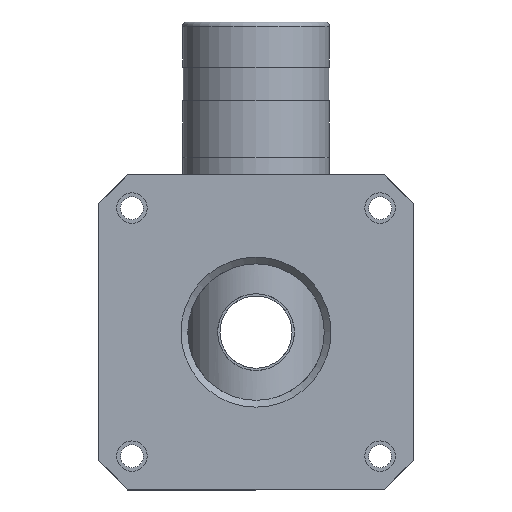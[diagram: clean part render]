
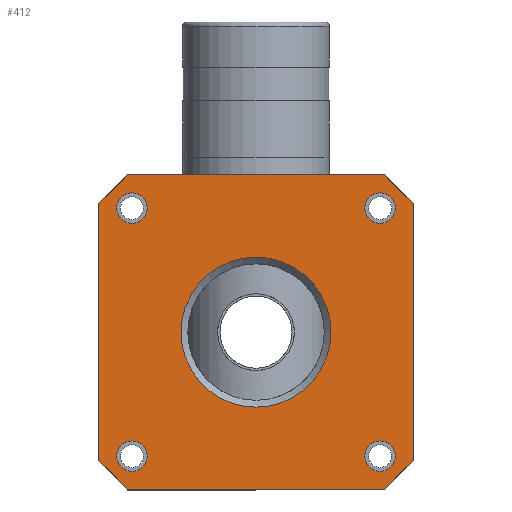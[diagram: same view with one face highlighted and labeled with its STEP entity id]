
A CAD part, front view. The second image highlights one B-rep face of the part: STEP entity #412.
In plain terms, the highlighted planar face has unit normal (0, -1, 0) as drawn and (0, 0, -1) by its records, which use the part's own axes.
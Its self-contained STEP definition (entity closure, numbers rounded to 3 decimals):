
#412=ADVANCED_FACE('',(#711,#712,#713,#714,#715,#716),#717,.T.);
#711=FACE_OUTER_BOUND('',#1082,.T.);
#712=FACE_BOUND('',#1083,.T.);
#713=FACE_BOUND('',#1084,.T.);
#714=FACE_BOUND('',#1085,.T.);
#715=FACE_BOUND('',#1086,.T.);
#716=FACE_BOUND('',#1087,.T.);
#717=PLANE('',#1088);
#1082=EDGE_LOOP('',(#1694,#1695,#1696,#1697,#1698,#1699,#1700,#1701));
#1083=EDGE_LOOP('',(#1702));
#1084=EDGE_LOOP('',(#1703));
#1085=EDGE_LOOP('',(#1704));
#1086=EDGE_LOOP('',(#1705));
#1087=EDGE_LOOP('',(#1706));
#1088=AXIS2_PLACEMENT_3D('',#1707,#1708,#1709);
#1694=ORIENTED_EDGE('',*,*,#2154,.T.);
#1695=ORIENTED_EDGE('',*,*,#2147,.T.);
#1696=ORIENTED_EDGE('',*,*,#2150,.T.);
#1697=ORIENTED_EDGE('',*,*,#2157,.T.);
#1698=ORIENTED_EDGE('',*,*,#2165,.T.);
#1699=ORIENTED_EDGE('',*,*,#2173,.T.);
#1700=ORIENTED_EDGE('',*,*,#2170,.T.);
#1701=ORIENTED_EDGE('',*,*,#2162,.T.);
#1702=ORIENTED_EDGE('',*,*,#2072,.T.);
#1703=ORIENTED_EDGE('',*,*,#2218,.F.);
#1704=ORIENTED_EDGE('',*,*,#2219,.F.);
#1705=ORIENTED_EDGE('',*,*,#2220,.F.);
#1706=ORIENTED_EDGE('',*,*,#2221,.F.);
#1707=CARTESIAN_POINT('',(0.0,0.0,-83.5));
#1708=DIRECTION('',(0.0,0.0,-1.0));
#1709=DIRECTION('',(-1.0,0.0,0.0));
#2072=EDGE_CURVE('',#2384,#2384,#2385,.F.);
#2147=EDGE_CURVE('',#2488,#2492,#2494,.T.);
#2150=EDGE_CURVE('',#2492,#2496,#2498,.T.);
#2154=EDGE_CURVE('',#2500,#2488,#2504,.T.);
#2157=EDGE_CURVE('',#2496,#2507,#2509,.T.);
#2162=EDGE_CURVE('',#2512,#2500,#2516,.T.);
#2165=EDGE_CURVE('',#2507,#2519,#2521,.T.);
#2170=EDGE_CURVE('',#2524,#2512,#2528,.T.);
#2173=EDGE_CURVE('',#2519,#2524,#2531,.T.);
#2218=EDGE_CURVE('',#2584,#2584,#2585,.T.);
#2219=EDGE_CURVE('',#2586,#2586,#2587,.T.);
#2220=EDGE_CURVE('',#2588,#2588,#2589,.T.);
#2221=EDGE_CURVE('',#2590,#2590,#2591,.T.);
#2384=VERTEX_POINT('',#3221);
#2385=CIRCLE('',#3222,33.25);
#2488=VERTEX_POINT('',#3371);
#2492=VERTEX_POINT('',#3377);
#2494=LINE('',#3380,#3381);
#2496=VERTEX_POINT('',#3383);
#2498=LINE('',#3386,#3387);
#2500=VERTEX_POINT('',#3389);
#2504=LINE('',#3395,#3396);
#2507=VERTEX_POINT('',#3399);
#2509=LINE('',#3402,#3403);
#2512=VERTEX_POINT('',#3407);
#2516=LINE('',#3413,#3414);
#2519=VERTEX_POINT('',#3417);
#2521=LINE('',#3420,#3421);
#2524=VERTEX_POINT('',#3425);
#2528=LINE('',#3431,#3432);
#2531=LINE('',#3436,#3437);
#2584=VERTEX_POINT('',#3517);
#2585=CIRCLE('',#3518,6.75);
#2586=VERTEX_POINT('',#3519);
#2587=CIRCLE('',#3520,6.75);
#2588=VERTEX_POINT('',#3521);
#2589=CIRCLE('',#3522,6.75);
#2590=VERTEX_POINT('',#3523);
#2591=CIRCLE('',#3524,6.75);
#3221=CARTESIAN_POINT('',(-33.25,0.,-83.5));
#3222=AXIS2_PLACEMENT_3D('',#3904,#3905,#3906);
#3371=CARTESIAN_POINT('',(-56.876,-69.7,-83.5));
#3377=CARTESIAN_POINT('',(-69.7,-56.876,-83.5));
#3380=CARTESIAN_POINT('',(-63.288,-63.288,-83.5));
#3381=VECTOR('',#3971,1.0);
#3383=CARTESIAN_POINT('',(-69.7,56.876,-83.5));
#3386=CARTESIAN_POINT('',(-69.7,0.0,-83.5));
#3387=VECTOR('',#3973,1.0);
#3389=CARTESIAN_POINT('',(56.876,-69.7,-83.5));
#3395=CARTESIAN_POINT('',(0.0,-69.7,-83.5));
#3396=VECTOR('',#3976,1.0);
#3399=CARTESIAN_POINT('',(-56.876,69.7,-83.5));
#3402=CARTESIAN_POINT('',(-63.288,63.288,-83.5));
#3403=VECTOR('',#3978,1.0);
#3407=CARTESIAN_POINT('',(69.7,-56.876,-83.5));
#3413=CARTESIAN_POINT('',(63.288,-63.288,-83.5));
#3414=VECTOR('',#3982,1.0);
#3417=CARTESIAN_POINT('',(56.876,69.7,-83.5));
#3420=CARTESIAN_POINT('',(0.0,69.7,-83.5));
#3421=VECTOR('',#3984,1.0);
#3425=CARTESIAN_POINT('',(69.7,56.876,-83.5));
#3431=CARTESIAN_POINT('',(69.7,0.0,-83.5));
#3432=VECTOR('',#3988,1.0);
#3436=CARTESIAN_POINT('',(63.288,63.288,-83.5));
#3437=VECTOR('',#3990,1.0);
#3517=CARTESIAN_POINT('',(-61.75,-55.0,-83.5));
#3518=AXIS2_PLACEMENT_3D('',#4024,#4025,#4026);
#3519=CARTESIAN_POINT('',(48.25,55.0,-83.5));
#3520=AXIS2_PLACEMENT_3D('',#4027,#4028,#4029);
#3521=CARTESIAN_POINT('',(48.25,-55.0,-83.5));
#3522=AXIS2_PLACEMENT_3D('',#4030,#4031,#4032);
#3523=CARTESIAN_POINT('',(-61.75,55.0,-83.5));
#3524=AXIS2_PLACEMENT_3D('',#4033,#4034,#4035);
#3904=CARTESIAN_POINT('',(0.0,0.0,-83.5));
#3905=DIRECTION('',(0.0,0.0,-1.0));
#3906=DIRECTION('',(-1.0,0.0,0.0));
#3971=DIRECTION('',(-0.707,0.707,0.0));
#3973=DIRECTION('',(0.0,1.0,0.0));
#3976=DIRECTION('',(-1.0,0.0,0.0));
#3978=DIRECTION('',(0.707,0.707,0.0));
#3982=DIRECTION('',(-0.707,-0.707,0.0));
#3984=DIRECTION('',(1.0,0.0,0.0));
#3988=DIRECTION('',(0.0,-1.0,0.0));
#3990=DIRECTION('',(0.707,-0.707,0.0));
#4024=CARTESIAN_POINT('',(-55.0,-55.0,-83.5));
#4025=DIRECTION('',(0.0,0.0,-1.0));
#4026=DIRECTION('',(-1.0,0.0,0.0));
#4027=CARTESIAN_POINT('',(55.0,55.0,-83.5));
#4028=DIRECTION('',(0.0,0.0,-1.0));
#4029=DIRECTION('',(-1.0,0.0,0.0));
#4030=CARTESIAN_POINT('',(55.0,-55.0,-83.5));
#4031=DIRECTION('',(0.0,0.0,-1.0));
#4032=DIRECTION('',(-1.0,0.0,0.0));
#4033=CARTESIAN_POINT('',(-55.0,55.0,-83.5));
#4034=DIRECTION('',(0.0,0.0,-1.0));
#4035=DIRECTION('',(-1.0,0.0,0.0));
